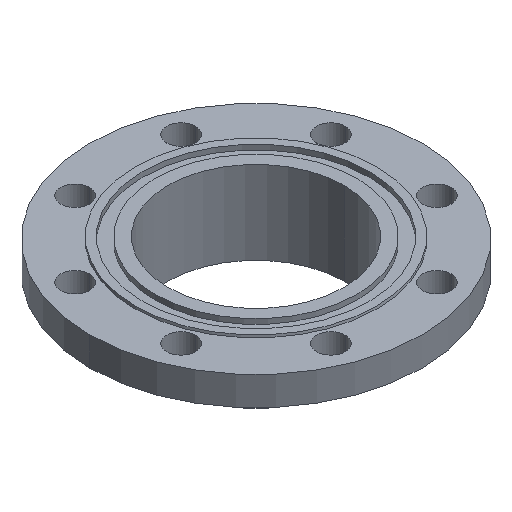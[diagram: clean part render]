
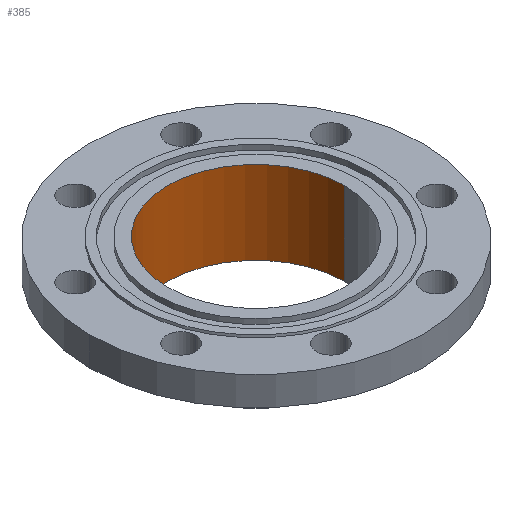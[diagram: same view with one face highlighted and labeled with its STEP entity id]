
A CAD part, isometric view. The second image highlights one B-rep face of the part: STEP entity #385.
In plain terms, the highlighted cylindrical face has radius 79.65 mm (diameter 159.3 mm), a partial arc.
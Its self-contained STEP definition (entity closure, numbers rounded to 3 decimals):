
#3 = VECTOR ( 'NONE', #596, 1000. ) ;
#4 = CIRCLE ( 'NONE', #758, 79.65 ) ;
#222 = CARTESIAN_POINT ( 'NONE',  ( 79.65, 0., -85. ) ) ;
#254 = DIRECTION ( 'NONE',  ( -1., 0., 0. ) ) ;
#277 = EDGE_CURVE ( 'NONE', #994, #1264, #1160, .T. ) ;
#317 = DIRECTION ( 'NONE',  ( -1., 0., 0. ) ) ;
#344 = CYLINDRICAL_SURFACE ( 'NONE', #962, 79.65 ) ;
#354 = ORIENTED_EDGE ( 'NONE', *, *, #655, .F. ) ;
#363 = CARTESIAN_POINT ( 'NONE',  ( -79.65, 0., -85. ) ) ;
#385 = ADVANCED_FACE ( 'NONE', ( #1239 ), #344, .F. ) ;
#430 = CARTESIAN_POINT ( 'NONE',  ( 0., 0., -75. ) ) ;
#436 = AXIS2_PLACEMENT_3D ( 'NONE', #430, #786, #1228 ) ;
#458 = CARTESIAN_POINT ( 'NONE',  ( 79.65, 0., 0. ) ) ;
#464 = VERTEX_POINT ( 'NONE', #458 ) ;
#596 = DIRECTION ( 'NONE',  ( 0., 0., -1. ) ) ;
#636 = ORIENTED_EDGE ( 'NONE', *, *, #856, .T. ) ;
#642 = EDGE_LOOP ( 'NONE', ( #354, #723, #636, #1007 ) ) ;
#655 = EDGE_CURVE ( 'NONE', #464, #1264, #1099, .T. ) ;
#715 = CARTESIAN_POINT ( 'NONE',  ( 0., 0., -85. ) ) ;
#723 = ORIENTED_EDGE ( 'NONE', *, *, #1035, .F. ) ;
#727 = VERTEX_POINT ( 'NONE', #1226 ) ;
#729 = DIRECTION ( 'NONE',  ( 0., 0., -1. ) ) ;
#758 = AXIS2_PLACEMENT_3D ( 'NONE', #772, #1213, #317 ) ;
#772 = CARTESIAN_POINT ( 'NONE',  ( 0., 0., 0. ) ) ;
#786 = DIRECTION ( 'NONE',  ( 0., 0., -1. ) ) ;
#824 = CARTESIAN_POINT ( 'NONE',  ( 79.65, 0., -75. ) ) ;
#851 = CARTESIAN_POINT ( 'NONE',  ( -79.65, 0., -75. ) ) ;
#856 = EDGE_CURVE ( 'NONE', #727, #994, #1255, .T. ) ;
#896 = VECTOR ( 'NONE', #729, 1000. ) ;
#962 = AXIS2_PLACEMENT_3D ( 'NONE', #715, #1140, #254 ) ;
#994 = VERTEX_POINT ( 'NONE', #851 ) ;
#1007 = ORIENTED_EDGE ( 'NONE', *, *, #277, .T. ) ;
#1035 = EDGE_CURVE ( 'NONE', #727, #464, #4, .T. ) ;
#1099 = LINE ( 'NONE', #222, #3 ) ;
#1140 = DIRECTION ( 'NONE',  ( 0., 0., -1. ) ) ;
#1160 = CIRCLE ( 'NONE', #436, 79.65 ) ;
#1213 = DIRECTION ( 'NONE',  ( 0., 0., -1. ) ) ;
#1226 = CARTESIAN_POINT ( 'NONE',  ( -79.65, 0., 0. ) ) ;
#1228 = DIRECTION ( 'NONE',  ( -1., 0., 0. ) ) ;
#1239 = FACE_OUTER_BOUND ( 'NONE', #642, .T. ) ;
#1255 = LINE ( 'NONE', #363, #896 ) ;
#1264 = VERTEX_POINT ( 'NONE', #824 ) ;
